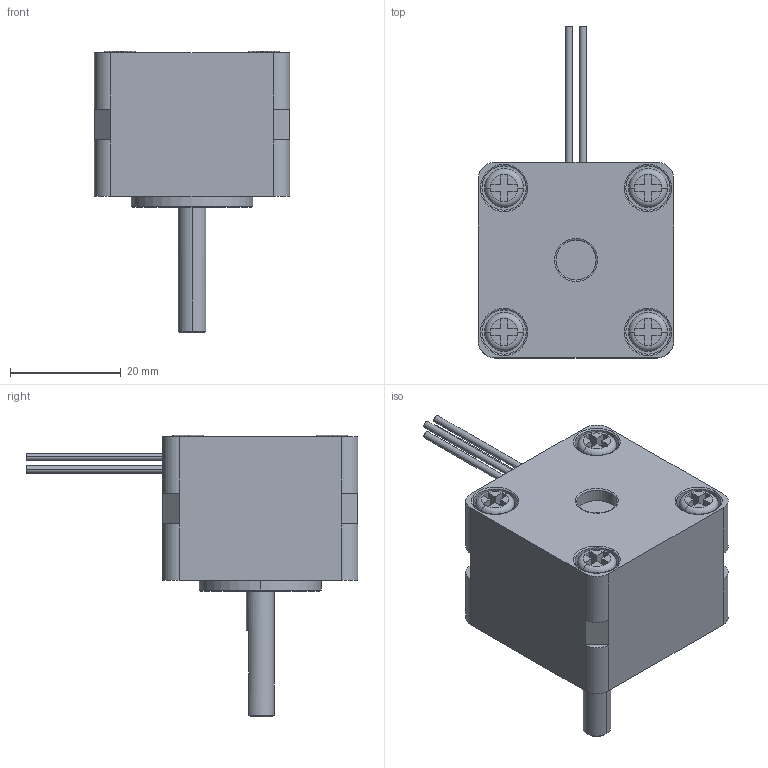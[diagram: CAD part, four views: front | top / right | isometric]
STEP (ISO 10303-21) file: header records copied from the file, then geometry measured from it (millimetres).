
FILE_DESCRIPTION((''),'2;1');
FILE_NAME('PRT0001','2017-12-07T10:57:12',('mulloa'),(''),'CREO PARAMETRIC BY PTC INC, 2016390','CREO PARAMETRIC BY PTC INC, 2016390','');
FILE_SCHEMA(('CONFIG_CONTROL_DESIGN'));
Length unit declared in the file: inch
Products named in the file (1): PRT0001
Bounding box: 35.31 x 59.94 x 50.8 mm (x, y, z)
Volume: 32871.4 mm3; surface area: 8077.6 mm2
Topology: 1 solids, 5 shells, 200 faces, 456 edges, 274 vertices
Faces by surface type: plane 93, cylinder 70, cone 19, torus 18
Entity records: 5594 total; most frequent: DIRECTION 1061, CARTESIAN_POINT 931, ORIENTED_EDGE 880, EDGE_CURVE 448, AXIS2_PLACEMENT_3D 414, VERTEX_POINT 274, VECTOR 233, LINE 233
